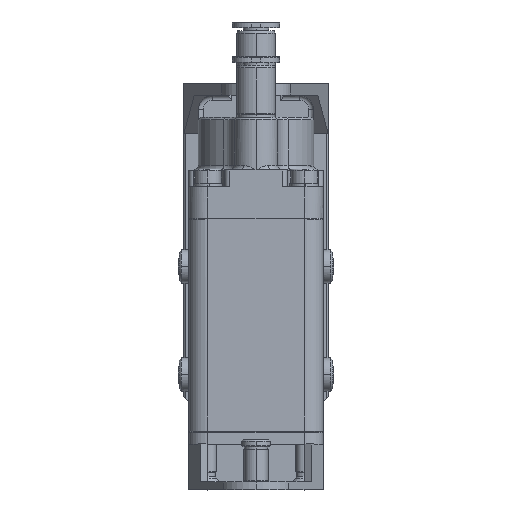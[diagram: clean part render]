
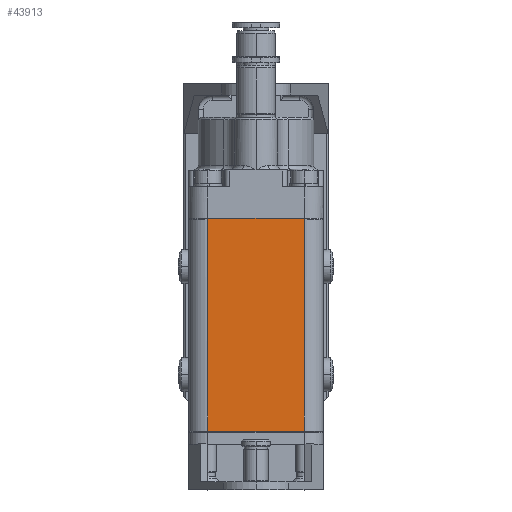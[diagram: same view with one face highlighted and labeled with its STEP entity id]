
A CAD part, top view. The second image highlights one B-rep face of the part: STEP entity #43913.
In plain terms, the highlighted planar face has unit normal (0, 0, 1).
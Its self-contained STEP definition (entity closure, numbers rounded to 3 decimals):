
#82 = VECTOR ( 'NONE', #8674, 1000. ) ;
#763 = CARTESIAN_POINT ( 'NONE',  ( -10., 0.2, 18. ) ) ;
#1534 = ORIENTED_EDGE ( 'NONE', *, *, #32914, .T. ) ;
#6372 = LINE ( 'NONE', #29970, #82 ) ;
#6767 = DIRECTION ( 'NONE',  ( 0., -1., 0. ) ) ;
#7489 = VECTOR ( 'NONE', #32844, 1000. ) ;
#8674 = DIRECTION ( 'NONE',  ( 0., -1., 0. ) ) ;
#11395 = CARTESIAN_POINT ( 'NONE',  ( -12., -4.21, 18. ) ) ;
#11648 = CARTESIAN_POINT ( 'NONE',  ( 0., 0.2, 18. ) ) ;
#12406 = AXIS2_PLACEMENT_3D ( 'NONE', #11395, #36083, #15015 ) ;
#13888 = LINE ( 'NONE', #44354, #32643 ) ;
#15015 = DIRECTION ( 'NONE',  ( 1., 0., 0. ) ) ;
#17086 = LINE ( 'NONE', #11648, #7489 ) ;
#17380 = CARTESIAN_POINT ( 'NONE',  ( 10., 0.2, 18. ) ) ;
#18298 = PLANE ( 'NONE',  #12406 ) ;
#20093 = LINE ( 'NONE', #28135, #37593 ) ;
#21481 = EDGE_CURVE ( 'NONE', #36511, #30517, #20093, .T. ) ;
#21901 = CARTESIAN_POINT ( 'NONE',  ( -10., 44.425, 17.95 ) ) ;
#22817 = ORIENTED_EDGE ( 'NONE', *, *, #31111, .T. ) ;
#22836 = ORIENTED_EDGE ( 'NONE', *, *, #26961, .T. ) ;
#23324 = FACE_OUTER_BOUND ( 'NONE', #35358, .T. ) ;
#23363 = DIRECTION ( 'NONE',  ( -1., 0., 0. ) ) ;
#23558 = VERTEX_POINT ( 'NONE', #763 ) ;
#26961 = EDGE_CURVE ( 'NONE', #23558, #30517, #17086, .T. ) ;
#27861 = VERTEX_POINT ( 'NONE', #21901 ) ;
#28135 = CARTESIAN_POINT ( 'NONE',  ( 10., 22.25, 18. ) ) ;
#29970 = CARTESIAN_POINT ( 'NONE',  ( -10., 22.25, 18. ) ) ;
#30517 = VERTEX_POINT ( 'NONE', #17380 ) ;
#31111 = EDGE_CURVE ( 'NONE', #36511, #27861, #13888, .T. ) ;
#32643 = VECTOR ( 'NONE', #23363, 1000. ) ;
#32844 = DIRECTION ( 'NONE',  ( 1., 0., 0. ) ) ;
#32914 = EDGE_CURVE ( 'NONE', #27861, #23558, #6372, .T. ) ;
#35358 = EDGE_LOOP ( 'NONE', ( #22836, #46028, #22817, #1534 ) ) ;
#36083 = DIRECTION ( 'NONE',  ( 0., 0., 1. ) ) ;
#36511 = VERTEX_POINT ( 'NONE', #40755 ) ;
#37593 = VECTOR ( 'NONE', #6767, 1000. ) ;
#40755 = CARTESIAN_POINT ( 'NONE',  ( 10., 44.425, 17.95 ) ) ;
#43913 = ADVANCED_FACE ( 'NONE', ( #23324 ), #18298, .T. ) ;
#44354 = CARTESIAN_POINT ( 'NONE',  ( 0., 44.3, 18. ) ) ;
#46028 = ORIENTED_EDGE ( 'NONE', *, *, #21481, .F. ) ;
